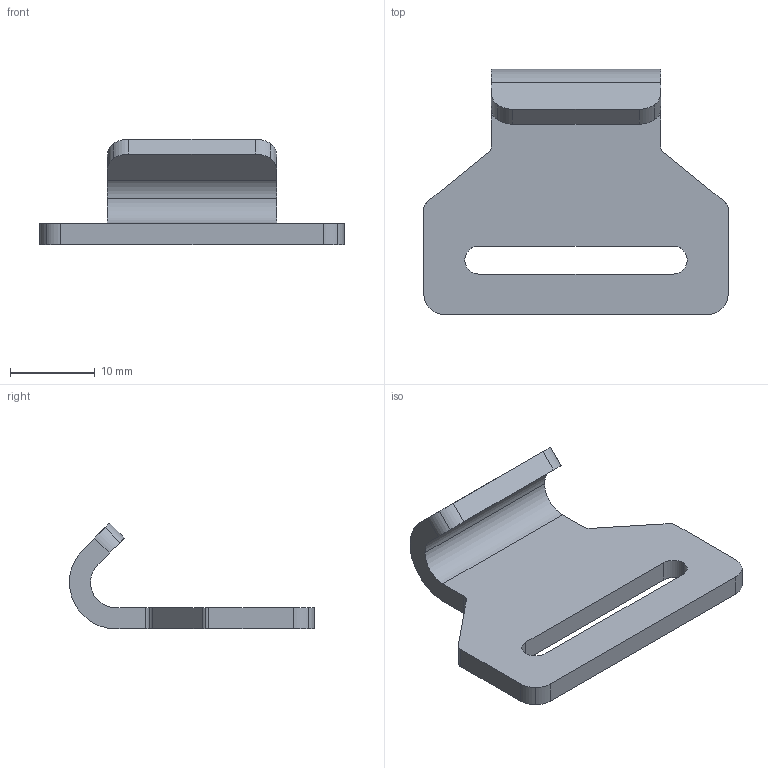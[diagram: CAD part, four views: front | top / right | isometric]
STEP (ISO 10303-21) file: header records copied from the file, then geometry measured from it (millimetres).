
FILE_DESCRIPTION((''),'2;1');
FILE_NAME('3609.__.stp','2018-06-04T16:32:42',(''),(''),'Mechanical Desktop 2006','Mechanical Desktop 2006',', , ');
FILE_SCHEMA(('AUTOMOTIVE_DESIGN { 1 2 10303 214 0 1 1 1 }'));
Length unit declared in the file: millimetre
Products named in the file (2): 3609.04; TEIL1
Assembly tree (1 placements, depth 2):
  3609.04
    TEIL1
Bounding box: 36 x 29 x 12.5 mm (x, y, z)
Volume: 2321.1 mm3; surface area: 2335.1 mm2
Topology: 1 solids, 1 shells, 38 faces, 108 edges, 72 vertices
Faces by surface type: cylinder 24, plane 14
Entity records: 1375 total; most frequent: DIRECTION 236, CARTESIAN_POINT 223, ORIENTED_EDGE 216, EDGE_CURVE 108, AXIS2_PLACEMENT_3D 88, VERTEX_POINT 72, VECTOR 60, LINE 60
